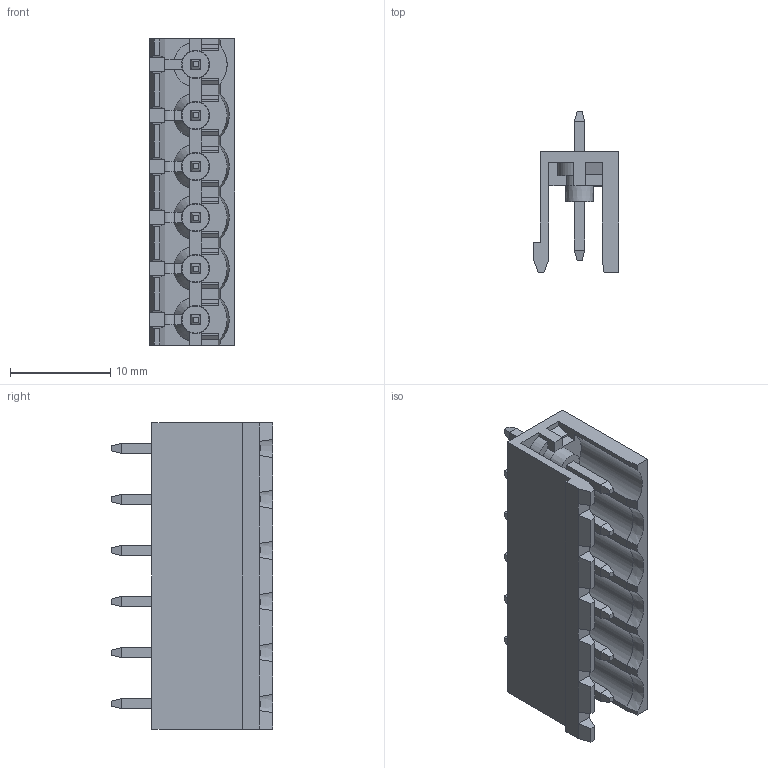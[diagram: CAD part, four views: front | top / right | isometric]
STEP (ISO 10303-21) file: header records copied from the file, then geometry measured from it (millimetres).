
FILE_DESCRIPTION (( 'STEP AP203' ), '1' );
FILE_NAME ('BR8MC1-06.STEP', '2020-03-18T02:41:37', ( '' ), ( '' ), 'SwSTEP 2.0', 'SolidWorks 2019', '' );
FILE_SCHEMA (( 'CONFIG_CONTROL_DESIGN' ));
Length unit declared in the file: millimetre
Products named in the file (1): BR8MC1-06
Bounding box: 8.5 x 16.03 x 30.48 mm (x, y, z)
Volume: 1157 mm3; surface area: 2609.2 mm2
Topology: 1 solids, 1 shells, 517 faces, 1350 edges, 835 vertices
Faces by surface type: plane 447, cylinder 31, cone 27, sphere 12
Entity records: 15428 total; most frequent: CARTESIAN_POINT 2914, ORIENTED_EDGE 2652, DIRECTION 2429, EDGE_CURVE 1326, VECTOR 1141, LINE 1141, VERTEX_POINT 823, AXIS2_PLACEMENT_3D 644
